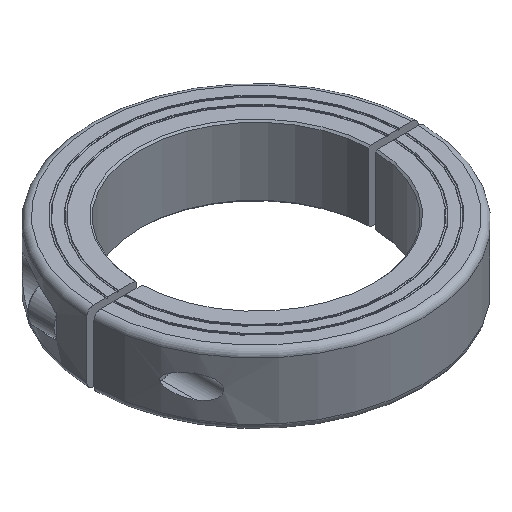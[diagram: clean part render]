
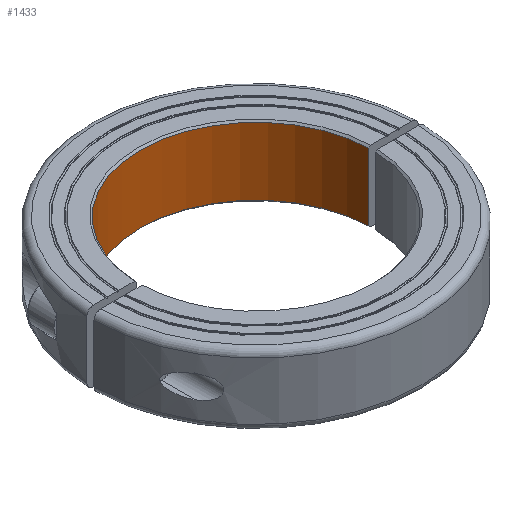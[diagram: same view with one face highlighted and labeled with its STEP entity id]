
A CAD part, isometric view. The second image highlights one B-rep face of the part: STEP entity #1433.
In plain terms, the highlighted cylindrical face has radius 52.5 mm (diameter 105 mm), a partial arc.
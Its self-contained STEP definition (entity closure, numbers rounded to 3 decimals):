
#251=CARTESIAN_POINT('',(-52.476,1.588,
-0.75));
#256=DIRECTION('',(0.,0.,-1.));
#257=VECTOR('',#256,30.5);
#258=CARTESIAN_POINT('',(-52.476,1.588,
-0.75));
#259=LINE('',#258,#257);
#263=CARTESIAN_POINT('',(-52.476,1.587,-31.25));
#303=CARTESIAN_POINT('',(52.476,1.588,-31.25));
#308=DIRECTION('',(0.,0.,1.));
#309=VECTOR('',#308,30.5);
#310=CARTESIAN_POINT('',(52.476,1.588,-31.25));
#311=LINE('',#310,#309);
#315=CARTESIAN_POINT('',(52.476,1.588,-0.75));
#391=CARTESIAN_POINT('',(0.,0.,-31.25));
#392=DIRECTION('',(0.,0.,1.));
#393=DIRECTION('',(1.,0.03,0.));
#394=AXIS2_PLACEMENT_3D('',#391,#392,#393);
#401=CARTESIAN_POINT('',(0.,0.,-0.75));
#402=DIRECTION('',(0.,0.,-1.));
#403=DIRECTION('',(-1.,0.03,0.));
#404=AXIS2_PLACEMENT_3D('',#401,#402,#403);
#891=VERTEX_POINT('',#251);
#892=VERTEX_POINT('',#263);
#894=VERTEX_POINT('',#303);
#896=VERTEX_POINT('',#315);
#1421=CARTESIAN_POINT('',(0.,0.,-0.75));
#1422=DIRECTION('',(0.,0.,-1.));
#1423=DIRECTION('',(-1.,0.,0.));
#1424=AXIS2_PLACEMENT_3D('',#1421,#1422,#1423);
#1425=CYLINDRICAL_SURFACE('',#1424,52.5);
#1426=ORIENTED_EDGE('',*,*,#1309,.F.);
#1428=ORIENTED_EDGE('',*,*,#1427,.T.);
#1429=ORIENTED_EDGE('',*,*,#1360,.F.);
#1430=ORIENTED_EDGE('',*,*,#1407,.T.);
#1431=EDGE_LOOP('',(#1426,#1428,#1429,#1430));
#1432=FACE_OUTER_BOUND('',#1431,.F.);
#395=CIRCLE('',#394,52.5);
#405=CIRCLE('',#404,52.5);
#1309=EDGE_CURVE('',#891,#892,#259,.T.);
#1360=EDGE_CURVE('',#894,#896,#311,.T.);
#1407=EDGE_CURVE('',#894,#892,#395,.T.);
#1427=EDGE_CURVE('',#891,#896,#405,.T.);
#1433=ADVANCED_FACE('',(#1432),#1425,.F.);
